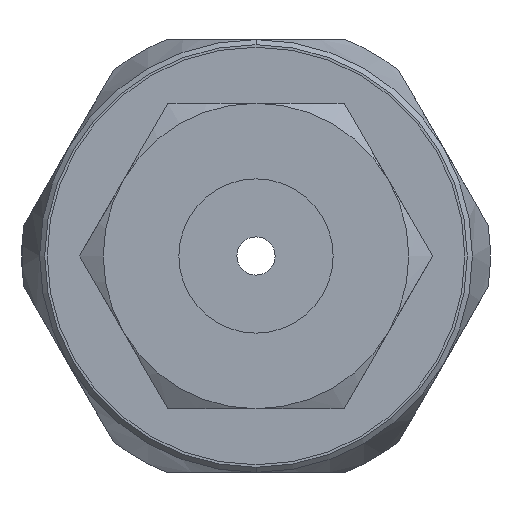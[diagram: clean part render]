
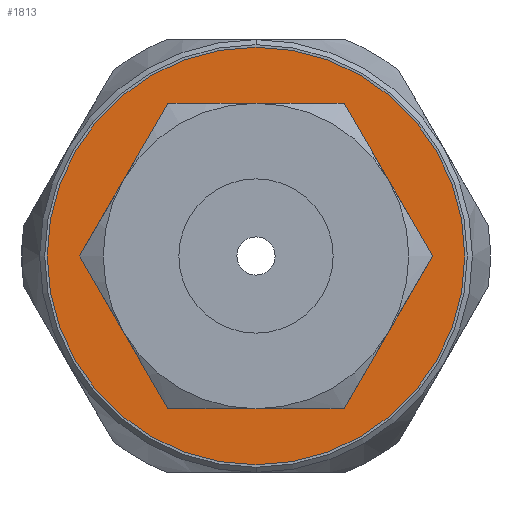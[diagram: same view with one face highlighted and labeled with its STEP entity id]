
A CAD part, front view. The second image highlights one B-rep face of the part: STEP entity #1813.
In plain terms, the highlighted planar face has unit normal (0, -1, 0).
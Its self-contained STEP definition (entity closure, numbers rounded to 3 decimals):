
#64 = ORIENTED_EDGE ( 'NONE', *, *, #2573, .T. ) ;
#65 = ORIENTED_EDGE ( 'NONE', *, *, #2615, .T. ) ;
#89 = ORIENTED_EDGE ( 'NONE', *, *, #2619, .T. ) ;
#93 = ORIENTED_EDGE ( 'NONE', *, *, #2603, .F. ) ;
#122 = VERTEX_POINT ( 'NONE', #3148 ) ;
#151 = VERTEX_POINT ( 'NONE', #3182 ) ;
#194 = VERTEX_POINT ( 'NONE', #3160 ) ;
#248 = VERTEX_POINT ( 'NONE', #3204 ) ;
#269 = VERTEX_POINT ( 'NONE', #3190 ) ;
#383 = VECTOR ( 'NONE', #1316, 1000. ) ;
#407 = CIRCLE ( 'NONE', #507, 41. ) ;
#449 = VECTOR ( 'NONE', #1480, 1000. ) ;
#450 = VECTOR ( 'NONE', #1390, 1000. ) ;
#464 = AXIS2_PLACEMENT_3D ( 'NONE', #806, #804, #811 ) ;
#507 = AXIS2_PLACEMENT_3D ( 'NONE', #1474, #1475, #1476 ) ;
#515 = VECTOR ( 'NONE', #1528, 1000. ) ;
#565 = VECTOR ( 'NONE', #1551, 1000. ) ;
#567 = VECTOR ( 'NONE', #1365, 1000. ) ;
#801 = FACE_BOUND ( 'NONE', #2485, .T. ) ;
#804 = DIRECTION ( 'NONE',  ( 0., 1., 0. ) ) ;
#806 = CARTESIAN_POINT ( 'NONE',  ( 0., 25., 0. ) ) ;
#807 = FACE_OUTER_BOUND ( 'NONE', #2466, .T. ) ;
#809 = PLANE ( 'NONE',  #464 ) ;
#811 = DIRECTION ( 'NONE',  ( 0., 0., 1. ) ) ;
#1304 = LINE ( 'NONE', #1314, #383 ) ;
#1314 = CARTESIAN_POINT ( 'NONE',  ( 17.321, 25., 30. ) ) ;
#1316 = DIRECTION ( 'NONE',  ( 0.5, 0., -0.866 ) ) ;
#1355 = LINE ( 'NONE', #1364, #567 ) ;
#1364 = CARTESIAN_POINT ( 'NONE',  ( -17.321, 25., 30. ) ) ;
#1365 = DIRECTION ( 'NONE',  ( 1., 0., 0. ) ) ;
#1383 = LINE ( 'NONE', #1389, #450 ) ;
#1389 = CARTESIAN_POINT ( 'NONE',  ( 17.321, 25., -30. ) ) ;
#1390 = DIRECTION ( 'NONE',  ( -1., 0., 0. ) ) ;
#1474 = CARTESIAN_POINT ( 'NONE',  ( 0., 25., 0. ) ) ;
#1475 = DIRECTION ( 'NONE',  ( 0., 1., 0. ) ) ;
#1476 = DIRECTION ( 'NONE',  ( 0., 0., 1. ) ) ;
#1478 = LINE ( 'NONE', #1479, #449 ) ;
#1479 = CARTESIAN_POINT ( 'NONE',  ( 34.641, 25., 0. ) ) ;
#1480 = DIRECTION ( 'NONE',  ( -0.5, 0., -0.866 ) ) ;
#1513 = CARTESIAN_POINT ( 'NONE',  ( -34.641, 25., 0. ) ) ;
#1524 = LINE ( 'NONE', #1513, #515 ) ;
#1528 = DIRECTION ( 'NONE',  ( 0.5, 0., 0.866 ) ) ;
#1548 = LINE ( 'NONE', #1550, #565 ) ;
#1550 = CARTESIAN_POINT ( 'NONE',  ( -17.321, 25., -30. ) ) ;
#1551 = DIRECTION ( 'NONE',  ( -0.5, 0., 0.866 ) ) ;
#1707 = VERTEX_POINT ( 'NONE', #3260 ) ;
#1720 = VERTEX_POINT ( 'NONE', #3273 ) ;
#1726 = VERTEX_POINT ( 'NONE', #3279 ) ;
#1813 = ADVANCED_FACE ( 'NONE', ( #807, #801 ), #809, .F. ) ;
#1900 = EDGE_CURVE ( 'NONE', #122, #1726, #1304, .T. ) ;
#2192 = CARTESIAN_POINT ( 'NONE',  ( 0., 25., 0. ) ) ;
#2193 = DIRECTION ( 'NONE',  ( 0., 1., 0. ) ) ;
#2194 = DIRECTION ( 'NONE',  ( 0., 0., 1. ) ) ;
#2420 = ORIENTED_EDGE ( 'NONE', *, *, #1900, .T. ) ;
#2466 = EDGE_LOOP ( 'NONE', ( #3049, #93 ) ) ;
#2485 = EDGE_LOOP ( 'NONE', ( #2420, #3067, #3043, #89, #65, #64 ) ) ;
#2573 = EDGE_CURVE ( 'NONE', #1720, #122, #1355, .T. ) ;
#2579 = EDGE_CURVE ( 'NONE', #269, #194, #1383, .T. ) ;
#2603 = EDGE_CURVE ( 'NONE', #1707, #151, #407, .T. ) ;
#2605 = EDGE_CURVE ( 'NONE', #1726, #269, #1478, .T. ) ;
#2615 = EDGE_CURVE ( 'NONE', #248, #1720, #1524, .T. ) ;
#2619 = EDGE_CURVE ( 'NONE', #194, #248, #1548, .T. ) ;
#2695 = EDGE_CURVE ( 'NONE', #151, #1707, #2989, .T. ) ;
#2899 = AXIS2_PLACEMENT_3D ( 'NONE', #2192, #2193, #2194 ) ;
#2989 = CIRCLE ( 'NONE', #2899, 41. ) ;
#3043 = ORIENTED_EDGE ( 'NONE', *, *, #2579, .T. ) ;
#3049 = ORIENTED_EDGE ( 'NONE', *, *, #2695, .F. ) ;
#3067 = ORIENTED_EDGE ( 'NONE', *, *, #2605, .T. ) ;
#3148 = CARTESIAN_POINT ( 'NONE',  ( 17.321, 25., 30. ) ) ;
#3160 = CARTESIAN_POINT ( 'NONE',  ( -17.321, 25., -30. ) ) ;
#3182 = CARTESIAN_POINT ( 'NONE',  ( 0., 25., -41. ) ) ;
#3190 = CARTESIAN_POINT ( 'NONE',  ( 17.321, 25., -30. ) ) ;
#3204 = CARTESIAN_POINT ( 'NONE',  ( -34.641, 25., 0. ) ) ;
#3260 = CARTESIAN_POINT ( 'NONE',  ( 0., 25., 41. ) ) ;
#3273 = CARTESIAN_POINT ( 'NONE',  ( -17.321, 25., 30. ) ) ;
#3279 = CARTESIAN_POINT ( 'NONE',  ( 34.641, 25., 0. ) ) ;
